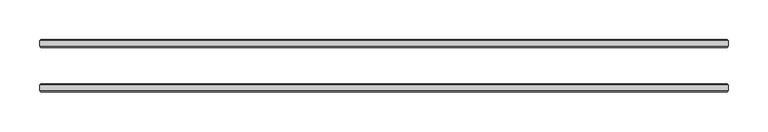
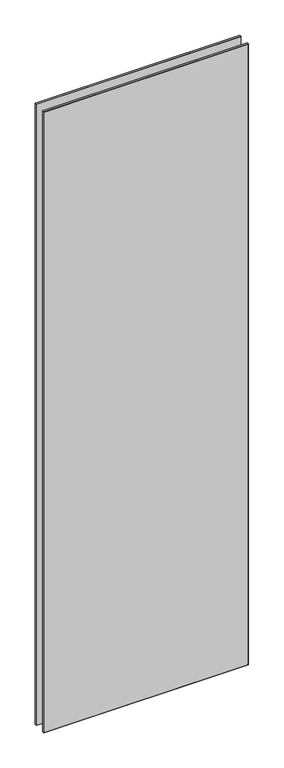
"""IFC4 building model written with IfcOpenShell, lengths in millimetres: plate geometry, 10-AMG-2-Панель двойной витраж10 : Стекло 10mm."""

from ifc_helpers import new_model, si_unit, origin, place, context, project, spatial, faceted_brep, source, transform, mapped, element, save


def plate_49787503(model_context):
    return source(origin(), model_context, "Body", "Brep", [
        faceted_brep([(434.0, -31.4961653, 2758.0), (434.0, -24.5038347, 2758.0), (-434.0, -24.5038347, 2758.0), (-434.0, -31.4961653, 2758.0), (434.0, -24.5038347, -20.0), (434.0, -31.4961653, -20.0), (-434.0, -31.4961653, -20.0), (-434.0, -24.5038347, -20.0), (-432.4961653, -23.0, 2756.4961653), (432.4961653, -23.0, 2756.4961653), (432.4961653, -23.0, -18.5039422), (-432.4961653, -23.0, -18.5039422), (432.4961653, -33.0, 2756.4961653), (-432.4961653, -33.0, 2756.4961653), (-432.4961653, -33.0, -18.4961653), (432.4961653, -33.0, -18.4961653)], [[[0, 1, 2, 3]], [[4, 5, 6, 7]], [[8, 9, 10, 11]], [[3, 2, 7, 6]], [[12, 13, 14, 15]], [[1, 0, 5, 4]], [[1, 4, 10, 9]], [[5, 0, 12, 15]], [[0, 3, 13, 12]], [[2, 1, 9, 8]], [[7, 2, 8, 11]], [[3, 6, 14, 13]], [[6, 5, 15, 14]], [[4, 7, 11, 10]]]),
        faceted_brep([(434.0, 24.5038347, 2758.0), (434.0, 31.4961653, 2758.0), (-434.0, 31.4961653, 2758.0), (-434.0, 24.5038347, 2758.0), (434.0, 31.4961653, -20.0), (434.0, 24.5038347, -20.0), (-434.0, 24.5038347, -20.0), (-434.0, 31.4961653, -20.0), (-432.4961653, 33.0, 2756.4961653), (432.4961653, 33.0, 2756.4961653), (432.4961653, 33.0, -18.5039422), (-432.4961653, 33.0, -18.5039422), (432.4961653, 23.0, 2756.4961653), (-432.4961653, 23.0, 2756.4961653), (-432.4961653, 23.0, -18.4961653), (432.4961653, 23.0, -18.4961653)], [[[0, 1, 2, 3]], [[4, 5, 6, 7]], [[8, 9, 10, 11]], [[3, 2, 7, 6]], [[12, 13, 14, 15]], [[1, 0, 5, 4]], [[1, 4, 10, 9]], [[5, 0, 12, 15]], [[7, 2, 8, 11]], [[3, 6, 14, 13]], [[0, 3, 13, 12]], [[2, 1, 9, 8]], [[6, 5, 15, 14]], [[4, 7, 11, 10]]]),
    ])


if __name__ == "__main__":
    model = new_model("IFC4")
    model_context = context("Model", 3, world=origin())
    ifc_project = project(units=[si_unit("LENGTHUNIT", "METRE", prefix="MILLI")], contexts=[model_context])
    site = spatial("IfcSite", under=ifc_project)
    building = spatial("IfcBuilding", under=site)
    placement = place(None, origin())
    plate_shape = plate_49787503(model_context)
    element("IfcPlate", 1, ObjectType="10-AMG-2-Панель двойной витраж10 : Стекло 10mm", at=placement, inside=building, context=model_context, shape_type="MappedRepresentation", body=[
        mapped(plate_shape, transform((0.0, 0.0, 0.0), x_axis=(1.0, 0.0, 0.0), y_axis=(0.0, 1.0, 0.0), z_axis=(0.0, 0.0, 1.0))),
    ])
    save(model, "model.ifc")
